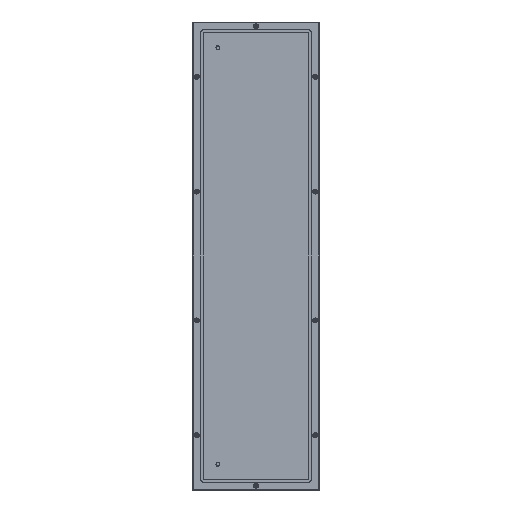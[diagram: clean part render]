
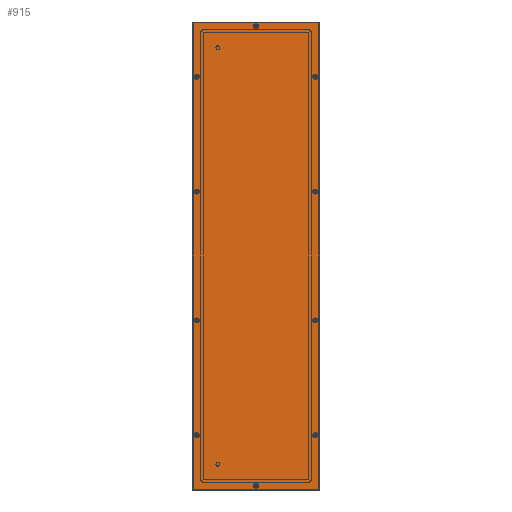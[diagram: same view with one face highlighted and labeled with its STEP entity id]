
A CAD part, left-side view. The second image highlights one B-rep face of the part: STEP entity #915.
In plain terms, the highlighted planar face has unit normal (-1, 0, 0) as drawn and (1, 0, 0) by its records, which use the part's own axes.
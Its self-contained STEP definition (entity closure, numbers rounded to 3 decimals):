
#915=ADVANCED_FACE('',(#1908,#1910,#1912,#1914,#1916,#1918,#1920,#1922,#1924,#1926,
#1928),#1930,.T.);
#1908=FACE_BOUND('',#1909,.T.);
#1909=EDGE_LOOP('',(#3701,#3702,#3703,#3704));
#1910=FACE_BOUND('',#1911,.T.);
#1911=EDGE_LOOP('',(#3705));
#1912=FACE_BOUND('',#1913,.T.);
#1913=EDGE_LOOP('',(#3706));
#1914=FACE_BOUND('',#1915,.T.);
#1915=EDGE_LOOP('',(#3707));
#1916=FACE_BOUND('',#1917,.T.);
#1917=EDGE_LOOP('',(#3708));
#1918=FACE_BOUND('',#1919,.T.);
#1919=EDGE_LOOP('',(#3709));
#1920=FACE_BOUND('',#1921,.T.);
#1921=EDGE_LOOP('',(#3710));
#1922=FACE_BOUND('',#1923,.T.);
#1923=EDGE_LOOP('',(#3711));
#1924=FACE_BOUND('',#1925,.T.);
#1925=EDGE_LOOP('',(#3712));
#1926=FACE_BOUND('',#1927,.T.);
#1927=EDGE_LOOP('',(#3713));
#1928=FACE_BOUND('',#1929,.T.);
#1929=EDGE_LOOP('',(#3714));
#1930=PLANE('',#1931);
#1931=AXIS2_PLACEMENT_3D('',#1932,#1933,#1934);
#1932=CARTESIAN_POINT('',(1.5,0.,0.));
#1933=DIRECTION('',(1.,0.,0.));
#1934=DIRECTION('',(0.,1.,0.));
#3701=ORIENTED_EDGE('',*,*,#4058,.T.);
#3702=ORIENTED_EDGE('',*,*,#4064,.T.);
#3703=ORIENTED_EDGE('',*,*,#4062,.T.);
#3704=ORIENTED_EDGE('',*,*,#4060,.T.);
#3705=ORIENTED_EDGE('',*,*,#4075,.T.);
#3706=ORIENTED_EDGE('',*,*,#4076,.T.);
#3707=ORIENTED_EDGE('',*,*,#4077,.T.);
#3708=ORIENTED_EDGE('',*,*,#4078,.T.);
#3709=ORIENTED_EDGE('',*,*,#4079,.T.);
#3710=ORIENTED_EDGE('',*,*,#4080,.T.);
#3711=ORIENTED_EDGE('',*,*,#4081,.T.);
#3712=ORIENTED_EDGE('',*,*,#4082,.T.);
#3713=ORIENTED_EDGE('',*,*,#4083,.T.);
#3714=ORIENTED_EDGE('',*,*,#4084,.T.);
#4058=EDGE_CURVE('',#4467,#4465,#4468,.T.);
#4060=EDGE_CURVE('',#4470,#4467,#4471,.T.);
#4062=EDGE_CURVE('',#4473,#4470,#4474,.T.);
#4064=EDGE_CURVE('',#4465,#4473,#4476,.T.);
#4075=EDGE_CURVE('',#4497,#4497,#4498,.F.);
#4076=EDGE_CURVE('',#4499,#4499,#4500,.F.);
#4077=EDGE_CURVE('',#4501,#4501,#4502,.F.);
#4078=EDGE_CURVE('',#4503,#4503,#4504,.F.);
#4079=EDGE_CURVE('',#4505,#4505,#4506,.F.);
#4080=EDGE_CURVE('',#4507,#4507,#4508,.F.);
#4081=EDGE_CURVE('',#4509,#4509,#4510,.F.);
#4082=EDGE_CURVE('',#4511,#4511,#4512,.F.);
#4083=EDGE_CURVE('',#4513,#4513,#4514,.F.);
#4084=EDGE_CURVE('',#4515,#4515,#4516,.T.);
#4465=VERTEX_POINT('',#5399);
#4467=VERTEX_POINT('',#5404);
#4468=LINE('',#5405,#5406);
#4470=VERTEX_POINT('',#5412);
#4471=LINE('',#5413,#5414);
#4473=VERTEX_POINT('',#5420);
#4474=LINE('',#5421,#5422);
#4476=LINE('',#5428,#5429);
#4497=VERTEX_POINT('',#5481);
#4498=CIRCLE('',#5482,6.954);
#4499=VERTEX_POINT('',#5486);
#4500=CIRCLE('',#5487,6.954);
#4501=VERTEX_POINT('',#5491);
#4502=CIRCLE('',#5492,6.954);
#4503=VERTEX_POINT('',#5496);
#4504=CIRCLE('',#5497,6.954);
#4505=VERTEX_POINT('',#5501);
#4506=CIRCLE('',#5502,6.954);
#4507=VERTEX_POINT('',#5506);
#4508=CIRCLE('',#5507,6.954);
#4509=VERTEX_POINT('',#5511);
#4510=CIRCLE('',#5512,6.954);
#4511=VERTEX_POINT('',#5516);
#4512=CIRCLE('',#5517,6.954);
#4513=VERTEX_POINT('',#5521);
#4514=CIRCLE('',#5522,6.954);
#4515=VERTEX_POINT('',#5526);
#4516=CIRCLE('',#5527,6.954);
#5399=CARTESIAN_POINT('',(1.5,-183.7,-682.7));
#5404=CARTESIAN_POINT('',(1.5,-183.7,682.7));
#5405=CARTESIAN_POINT('',(1.5,-183.7,682.7));
#5406=VECTOR('',#5407,1.);
#5407=DIRECTION('',(0.,0.,-1.));
#5412=CARTESIAN_POINT('',(1.5,183.7,682.7));
#5413=CARTESIAN_POINT('',(1.5,183.7,682.7));
#5414=VECTOR('',#5415,1.);
#5415=DIRECTION('',(0.,-1.,0.));
#5420=CARTESIAN_POINT('',(1.5,183.7,-682.7));
#5421=CARTESIAN_POINT('',(1.5,183.7,-682.7));
#5422=VECTOR('',#5423,1.);
#5423=DIRECTION('',(0.,0.,1.));
#5428=CARTESIAN_POINT('',(1.5,-183.7,-682.7));
#5429=VECTOR('',#5430,1.);
#5430=DIRECTION('',(0.,1.,0.));
#5481=CARTESIAN_POINT('',(1.5,6.954,-673.5));
#5482=AXIS2_PLACEMENT_3D('',#5483,#5484,#5485);
#5483=CARTESIAN_POINT('',(1.5,0.,-673.5));
#5484=DIRECTION('',(1.,0.,0.));
#5485=DIRECTION('',(0.,1.,0.));
#5486=CARTESIAN_POINT('',(1.5,6.954,673.5));
#5487=AXIS2_PLACEMENT_3D('',#5488,#5489,#5490);
#5488=CARTESIAN_POINT('',(1.5,0.,673.5));
#5489=DIRECTION('',(1.,0.,0.));
#5490=DIRECTION('',(0.,1.,0.));
#5491=CARTESIAN_POINT('',(1.5,180.454,-188.5));
#5492=AXIS2_PLACEMENT_3D('',#5493,#5494,#5495);
#5493=CARTESIAN_POINT('',(1.5,173.5,-188.5));
#5494=DIRECTION('',(1.,0.,0.));
#5495=DIRECTION('',(0.,1.,0.));
#5496=CARTESIAN_POINT('',(1.5,180.454,188.5));
#5497=AXIS2_PLACEMENT_3D('',#5498,#5499,#5500);
#5498=CARTESIAN_POINT('',(1.5,173.5,188.5));
#5499=DIRECTION('',(1.,0.,0.));
#5500=DIRECTION('',(0.,1.,0.));
#5501=CARTESIAN_POINT('',(1.5,-166.546,-188.5));
#5502=AXIS2_PLACEMENT_3D('',#5503,#5504,#5505);
#5503=CARTESIAN_POINT('',(1.5,-173.5,-188.5));
#5504=DIRECTION('',(1.,0.,0.));
#5505=DIRECTION('',(0.,1.,0.));
#5506=CARTESIAN_POINT('',(1.5,-166.546,188.5));
#5507=AXIS2_PLACEMENT_3D('',#5508,#5509,#5510);
#5508=CARTESIAN_POINT('',(1.5,-173.5,188.5));
#5509=DIRECTION('',(1.,0.,0.));
#5510=DIRECTION('',(0.,1.,0.));
#5511=CARTESIAN_POINT('',(1.5,180.454,525.));
#5512=AXIS2_PLACEMENT_3D('',#5513,#5514,#5515);
#5513=CARTESIAN_POINT('',(1.5,173.5,525.));
#5514=DIRECTION('',(1.,0.,0.));
#5515=DIRECTION('',(0.,1.,0.));
#5516=CARTESIAN_POINT('',(1.5,180.454,-525.));
#5517=AXIS2_PLACEMENT_3D('',#5518,#5519,#5520);
#5518=CARTESIAN_POINT('',(1.5,173.5,-525.));
#5519=DIRECTION('',(1.,0.,0.));
#5520=DIRECTION('',(0.,1.,0.));
#5521=CARTESIAN_POINT('',(1.5,-166.546,-525.));
#5522=AXIS2_PLACEMENT_3D('',#5523,#5524,#5525);
#5523=CARTESIAN_POINT('',(1.5,-173.5,-525.));
#5524=DIRECTION('',(1.,0.,0.));
#5525=DIRECTION('',(0.,1.,0.));
#5526=CARTESIAN_POINT('',(1.5,-166.546,525.));
#5527=AXIS2_PLACEMENT_3D('',#5528,#5529,#5530);
#5528=CARTESIAN_POINT('',(1.5,-173.5,525.));
#5529=DIRECTION('',(-1.,0.,0.));
#5530=DIRECTION('',(0.,1.,0.));
